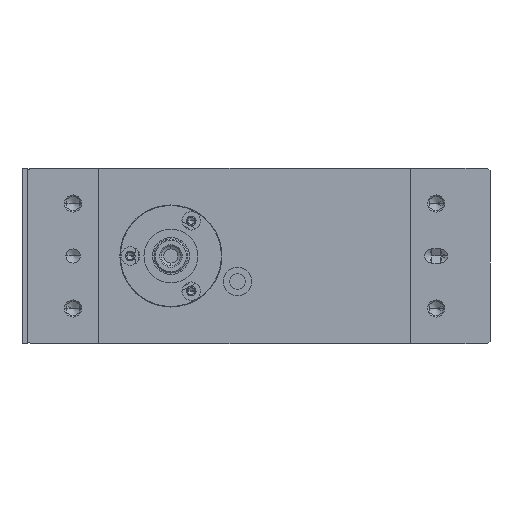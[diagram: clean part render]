
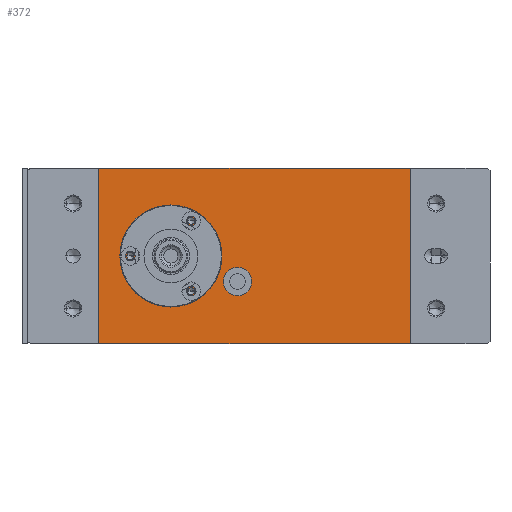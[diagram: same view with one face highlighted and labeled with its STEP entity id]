
A CAD part, left-side view. The second image highlights one B-rep face of the part: STEP entity #372.
In plain terms, the highlighted planar face has unit normal (-1, 0, 0) as drawn and (0, 0, 1) by its records, which use the part's own axes.
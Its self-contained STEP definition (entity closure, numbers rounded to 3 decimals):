
#217 = DIRECTION ( 'NONE',  ( 0., 0., -1. ) ) ;
#372 = ADVANCED_FACE ( 'NONE', ( #28684, #37001, #12776, #9105, #29196, #1552 ), #17458, .T. ) ;
#813 = CIRCLE ( 'NONE', #11651, 1.25 ) ;
#1460 = EDGE_LOOP ( 'NONE', ( #20440, #14285, #13157, #35990 ) ) ;
#1552 = FACE_BOUND ( 'NONE', #5052, .T. ) ;
#1899 = EDGE_LOOP ( 'NONE', ( #4335, #16795 ) ) ;
#2679 = DIRECTION ( 'NONE',  ( 0., 1., 0. ) ) ;
#3008 = EDGE_CURVE ( 'NONE', #17686, #37095, #26654, .T. ) ;
#3926 = CARTESIAN_POINT ( 'NONE',  ( -31., -20., -0.5 ) ) ;
#4232 = VERTEX_POINT ( 'NONE', #39672 ) ;
#4335 = ORIENTED_EDGE ( 'NONE', *, *, #13262, .T. ) ;
#4377 = CARTESIAN_POINT ( 'NONE',  ( -67.25, -11., -0.5 ) ) ;
#4657 = CARTESIAN_POINT ( 'NONE',  ( -31., -20., -0.5 ) ) ;
#4707 = DIRECTION ( 'NONE',  ( 0., 0., -1. ) ) ;
#4769 = CARTESIAN_POINT ( 'NONE',  ( -68.8, -11., -0.5 ) ) ;
#5052 = EDGE_LOOP ( 'NONE', ( #17892, #40511 ) ) ;
#5305 = CIRCLE ( 'NONE', #29476, 1.25 ) ;
#5657 = EDGE_CURVE ( 'NONE', #36398, #28233, #35173, .T. ) ;
#6084 = CIRCLE ( 'NONE', #49383, 12.75 ) ;
#6183 = LINE ( 'NONE', #37226, #40523 ) ;
#7118 = EDGE_CURVE ( 'NONE', #40057, #30839, #10634, .T. ) ;
#7378 = EDGE_CURVE ( 'NONE', #28233, #17686, #23637, .T. ) ;
#9105 = FACE_BOUND ( 'NONE', #13335, .T. ) ;
#9321 = DIRECTION ( 'NONE',  ( 1., 0., 0. ) ) ;
#9706 = CARTESIAN_POINT ( 'NONE',  ( -41.75, -11., -0.5 ) ) ;
#9758 = VECTOR ( 'NONE', #27343, 1000. ) ;
#10634 = CIRCLE ( 'NONE', #37261, 1.25 ) ;
#11437 = CARTESIAN_POINT ( 'NONE',  ( -80., 20., -0.5 ) ) ;
#11651 = AXIS2_PLACEMENT_3D ( 'NONE', #50486, #14792, #39297 ) ;
#11912 = DIRECTION ( 'NONE',  ( 1., 0., 0. ) ) ;
#12129 = CARTESIAN_POINT ( 'NONE',  ( -26., -20., -0.5 ) ) ;
#12776 = FACE_BOUND ( 'NONE', #23781, .T. ) ;
#13119 = VECTOR ( 'NONE', #35375, 1000. ) ;
#13157 = ORIENTED_EDGE ( 'NONE', *, *, #3008, .T. ) ;
#13262 = EDGE_CURVE ( 'NONE', #30839, #40057, #37638, .T. ) ;
#13335 = EDGE_LOOP ( 'NONE', ( #36234, #14442 ) ) ;
#13452 = CIRCLE ( 'NONE', #16754, 5. ) ;
#13712 = EDGE_CURVE ( 'NONE', #23550, #41140, #43732, .T. ) ;
#14285 = ORIENTED_EDGE ( 'NONE', *, *, #7378, .T. ) ;
#14442 = ORIENTED_EDGE ( 'NONE', *, *, #13712, .T. ) ;
#14792 = DIRECTION ( 'NONE',  ( 0., 0., -1. ) ) ;
#14881 = CIRCLE ( 'NONE', #35616, 12.75 ) ;
#15154 = AXIS2_PLACEMENT_3D ( 'NONE', #49747, #217, #43994 ) ;
#15679 = DIRECTION ( 'NONE',  ( 0., 0., -1. ) ) ;
#16438 = DIRECTION ( 'NONE',  ( 1., 0., 0. ) ) ;
#16754 = AXIS2_PLACEMENT_3D ( 'NONE', #4657, #47911, #24746 ) ;
#16795 = ORIENTED_EDGE ( 'NONE', *, *, #7118, .T. ) ;
#17458 = PLANE ( 'NONE',  #35229 ) ;
#17686 = VERTEX_POINT ( 'NONE', #39722 ) ;
#17892 = ORIENTED_EDGE ( 'NONE', *, *, #33284, .T. ) ;
#18735 = EDGE_CURVE ( 'NONE', #4232, #46538, #13452, .T. ) ;
#19020 = EDGE_CURVE ( 'NONE', #41140, #23550, #813, .T. ) ;
#19092 = VECTOR ( 'NONE', #2679, 1000. ) ;
#19097 = CARTESIAN_POINT ( 'NONE',  ( -80., 20., -0.5 ) ) ;
#19730 = CARTESIAN_POINT ( 'NONE',  ( -80., -42., -0.5 ) ) ;
#19761 = EDGE_CURVE ( 'NONE', #35197, #30782, #6084, .T. ) ;
#20194 = EDGE_CURVE ( 'NONE', #39720, #32031, #5305, .T. ) ;
#20440 = ORIENTED_EDGE ( 'NONE', *, *, #5657, .T. ) ;
#21200 = CARTESIAN_POINT ( 'NONE',  ( -46.1, 1.384, -0.5 ) ) ;
#21693 = AXIS2_PLACEMENT_3D ( 'NONE', #4769, #33200, #37092 ) ;
#22972 = ORIENTED_EDGE ( 'NONE', *, *, #18735, .T. ) ;
#22973 = EDGE_CURVE ( 'NONE', #37095, #36398, #6183, .T. ) ;
#23550 = VERTEX_POINT ( 'NONE', #30132 ) ;
#23637 = LINE ( 'NONE', #19730, #13119 ) ;
#23719 = AXIS2_PLACEMENT_3D ( 'NONE', #3926, #15679, #35759 ) ;
#23781 = EDGE_LOOP ( 'NONE', ( #40772, #22972 ) ) ;
#24579 = CARTESIAN_POINT ( 'NONE',  ( -70.05, -11., -0.5 ) ) ;
#24746 = DIRECTION ( 'NONE',  ( 1., 0., 0. ) ) ;
#24762 = EDGE_CURVE ( 'NONE', #46538, #4232, #32016, .T. ) ;
#25028 = EDGE_CURVE ( 'NONE', #30782, #35197, #14881, .T. ) ;
#25281 = DIRECTION ( 'NONE',  ( 1., 0., 0. ) ) ;
#26654 = LINE ( 'NONE', #41511, #19092 ) ;
#27343 = DIRECTION ( 'NONE',  ( 0., -1., 0. ) ) ;
#28136 = EDGE_LOOP ( 'NONE', ( #41392, #39421 ) ) ;
#28233 = VERTEX_POINT ( 'NONE', #50264 ) ;
#28640 = CARTESIAN_POINT ( 'NONE',  ( -47.35, 1.384, -0.5 ) ) ;
#28684 = FACE_BOUND ( 'NONE', #28136, .T. ) ;
#29196 = FACE_BOUND ( 'NONE', #1899, .T. ) ;
#29476 = AXIS2_PLACEMENT_3D ( 'NONE', #33598, #47093, #34887 ) ;
#30132 = CARTESIAN_POINT ( 'NONE',  ( -48.6, -23.384, -0.5 ) ) ;
#30782 = VERTEX_POINT ( 'NONE', #9706 ) ;
#30839 = VERTEX_POINT ( 'NONE', #21200 ) ;
#32016 = CIRCLE ( 'NONE', #23719, 5. ) ;
#32031 = VERTEX_POINT ( 'NONE', #36311 ) ;
#33200 = DIRECTION ( 'NONE',  ( 0., 0., -1. ) ) ;
#33284 = EDGE_CURVE ( 'NONE', #32031, #39720, #36654, .T. ) ;
#33598 = CARTESIAN_POINT ( 'NONE',  ( -68.8, -11., -0.5 ) ) ;
#34452 = CARTESIAN_POINT ( 'NONE',  ( -54.5, -11., -0.5 ) ) ;
#34887 = DIRECTION ( 'NONE',  ( 1., 0., 0. ) ) ;
#35173 = LINE ( 'NONE', #11437, #9758 ) ;
#35197 = VERTEX_POINT ( 'NONE', #4377 ) ;
#35229 = AXIS2_PLACEMENT_3D ( 'NONE', #45070, #48454, #25281 ) ;
#35375 = DIRECTION ( 'NONE',  ( 1., 0., 0. ) ) ;
#35616 = AXIS2_PLACEMENT_3D ( 'NONE', #45088, #4707, #16438 ) ;
#35759 = DIRECTION ( 'NONE',  ( 1., 0., 0. ) ) ;
#35990 = ORIENTED_EDGE ( 'NONE', *, *, #22973, .T. ) ;
#36229 = AXIS2_PLACEMENT_3D ( 'NONE', #39519, #47833, #11912 ) ;
#36234 = ORIENTED_EDGE ( 'NONE', *, *, #19020, .T. ) ;
#36311 = CARTESIAN_POINT ( 'NONE',  ( -67.55, -11., -0.5 ) ) ;
#36398 = VERTEX_POINT ( 'NONE', #19097 ) ;
#36654 = CIRCLE ( 'NONE', #21693, 1.25 ) ;
#37001 = FACE_OUTER_BOUND ( 'NONE', #1460, .T. ) ;
#37092 = DIRECTION ( 'NONE',  ( 1., 0., 0. ) ) ;
#37095 = VERTEX_POINT ( 'NONE', #50659 ) ;
#37226 = CARTESIAN_POINT ( 'NONE',  ( -80., 20., -0.5 ) ) ;
#37261 = AXIS2_PLACEMENT_3D ( 'NONE', #28640, #44257, #9321 ) ;
#37568 = DIRECTION ( 'NONE',  ( 1., 0., 0. ) ) ;
#37638 = CIRCLE ( 'NONE', #15154, 1.25 ) ;
#39297 = DIRECTION ( 'NONE',  ( 1., 0., 0. ) ) ;
#39421 = ORIENTED_EDGE ( 'NONE', *, *, #19761, .T. ) ;
#39519 = CARTESIAN_POINT ( 'NONE',  ( -47.35, -23.384, -0.5 ) ) ;
#39672 = CARTESIAN_POINT ( 'NONE',  ( -36., -20., -0.5 ) ) ;
#39720 = VERTEX_POINT ( 'NONE', #24579 ) ;
#39722 = CARTESIAN_POINT ( 'NONE',  ( 30., -42., -0.5 ) ) ;
#40057 = VERTEX_POINT ( 'NONE', #46692 ) ;
#40511 = ORIENTED_EDGE ( 'NONE', *, *, #20194, .T. ) ;
#40523 = VECTOR ( 'NONE', #49435, 1000. ) ;
#40772 = ORIENTED_EDGE ( 'NONE', *, *, #24762, .T. ) ;
#41140 = VERTEX_POINT ( 'NONE', #42486 ) ;
#41392 = ORIENTED_EDGE ( 'NONE', *, *, #25028, .T. ) ;
#41511 = CARTESIAN_POINT ( 'NONE',  ( 30., 20., -0.5 ) ) ;
#42486 = CARTESIAN_POINT ( 'NONE',  ( -46.1, -23.384, -0.5 ) ) ;
#43732 = CIRCLE ( 'NONE', #36229, 1.25 ) ;
#43994 = DIRECTION ( 'NONE',  ( 1., 0., 0. ) ) ;
#44257 = DIRECTION ( 'NONE',  ( 0., 0., -1. ) ) ;
#45070 = CARTESIAN_POINT ( 'NONE',  ( 0., 0., -0.5 ) ) ;
#45088 = CARTESIAN_POINT ( 'NONE',  ( -54.5, -11., -0.5 ) ) ;
#46538 = VERTEX_POINT ( 'NONE', #12129 ) ;
#46692 = CARTESIAN_POINT ( 'NONE',  ( -48.6, 1.384, -0.5 ) ) ;
#47093 = DIRECTION ( 'NONE',  ( 0., 0., -1. ) ) ;
#47833 = DIRECTION ( 'NONE',  ( 0., 0., -1. ) ) ;
#47911 = DIRECTION ( 'NONE',  ( 0., 0., -1. ) ) ;
#48454 = DIRECTION ( 'NONE',  ( 0., 0., 1. ) ) ;
#49383 = AXIS2_PLACEMENT_3D ( 'NONE', #34452, #50051, #37568 ) ;
#49435 = DIRECTION ( 'NONE',  ( -1., 0., 0. ) ) ;
#49747 = CARTESIAN_POINT ( 'NONE',  ( -47.35, 1.384, -0.5 ) ) ;
#50051 = DIRECTION ( 'NONE',  ( 0., 0., -1. ) ) ;
#50264 = CARTESIAN_POINT ( 'NONE',  ( -80., -42., -0.5 ) ) ;
#50486 = CARTESIAN_POINT ( 'NONE',  ( -47.35, -23.384, -0.5 ) ) ;
#50659 = CARTESIAN_POINT ( 'NONE',  ( 30., 20., -0.5 ) ) ;
